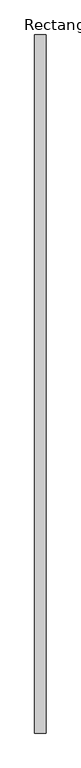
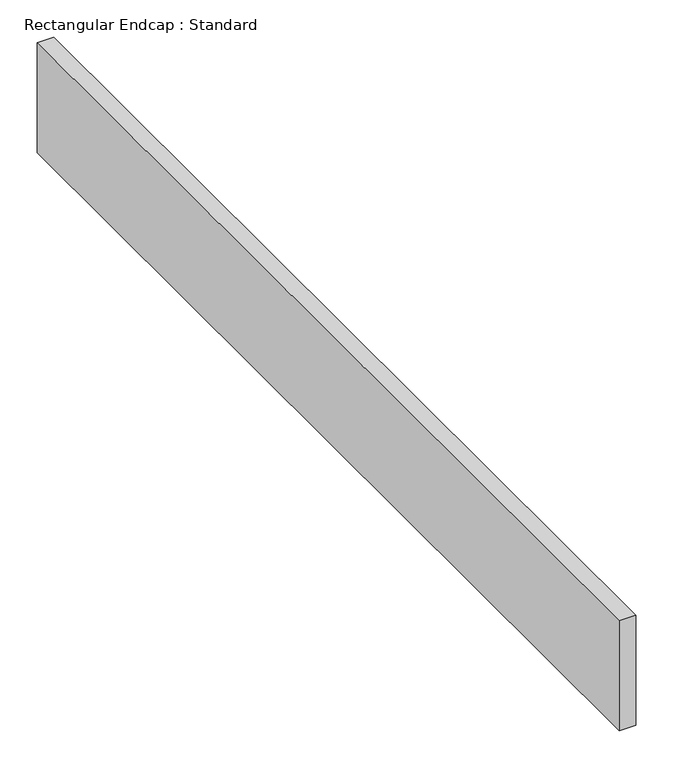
"""IFC4 building model written with IfcOpenShell, lengths in millimetres: duct fitting geometry, Rectangular Endcap : Standard."""

from ifc_helpers import new_model, si_unit, frame, origin, place, context, project, spatial, polyline, outline, extrude, source, transform, mapped, element, save


def rectangular_endcap_standard_127bff01(model_context):
    return source(origin(), model_context, "Body", "SweptSolid", [
        extrude(outline(polyline([(0.0, -777.875), (0.0, 777.875), (25.4, 777.875), (25.4, -777.875), (0.0, -777.875)])), frame((0.0, 0.0, -89.69375), z_axis=(0.0, 0.0, 1.0), x_axis=(1.0, 0.0, 0.0)), (0.0, 0.0, 1.0), 179.3875),
    ])


if __name__ == "__main__":
    model = new_model("IFC4")
    model_context = context("Model", 3, world=origin())
    ifc_project = project(units=[si_unit("LENGTHUNIT", "METRE", prefix="MILLI")], contexts=[model_context])
    site = spatial("IfcSite", under=ifc_project)
    building = spatial("IfcBuilding", under=site)
    placement = place(None, origin())
    rectangular_endcap_standard_shape = rectangular_endcap_standard_127bff01(model_context)
    element("IfcDuctFitting", 1, ObjectType="Rectangular Endcap : Standard", at=placement, inside=building, context=model_context, shape_type="MappedRepresentation", body=[
        mapped(rectangular_endcap_standard_shape, transform((0.0, 0.0, 0.0), x_axis=(1.0, 0.0, 0.0), y_axis=(0.0, 1.0, 0.0), z_axis=(0.0, 0.0, 1.0))),
    ])
    save(model, "model.ifc")
